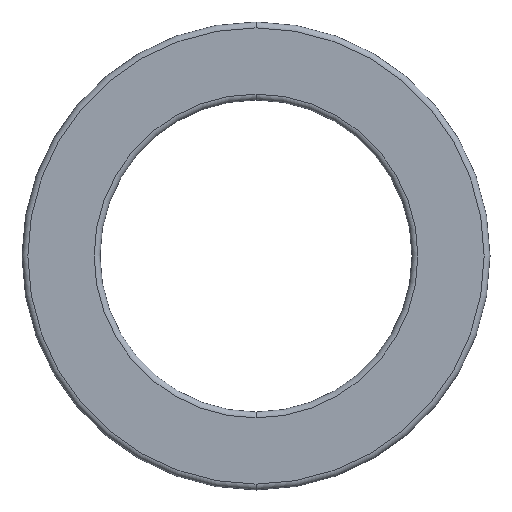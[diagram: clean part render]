
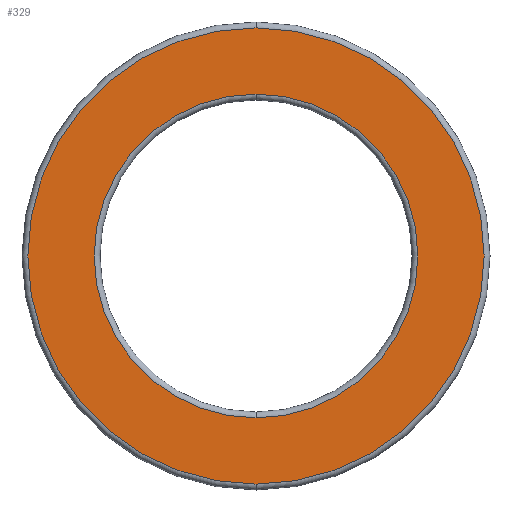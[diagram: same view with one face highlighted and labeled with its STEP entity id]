
A CAD part, front view. The second image highlights one B-rep face of the part: STEP entity #329.
In plain terms, the highlighted planar face has unit normal (0, -1, 0).
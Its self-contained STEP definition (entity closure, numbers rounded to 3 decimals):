
#5 = VERTEX_POINT ( 'NONE', #297 ) ;
#20 = CIRCLE ( 'NONE', #175, 8.3 ) ;
#31 = CARTESIAN_POINT ( 'NONE',  ( 0., 0., 0. ) ) ;
#34 = DIRECTION ( 'NONE',  ( 0., 0., -1. ) ) ;
#38 = DIRECTION ( 'NONE',  ( 0., 0., -1. ) ) ;
#50 = EDGE_LOOP ( 'NONE', ( #386, #406 ) ) ;
#70 = CARTESIAN_POINT ( 'NONE',  ( 0., 0., 0. ) ) ;
#105 = ORIENTED_EDGE ( 'NONE', *, *, #373, .T. ) ;
#117 = EDGE_CURVE ( 'NONE', #439, #165, #20, .T. ) ;
#119 = CARTESIAN_POINT ( 'NONE',  ( 0., 0., -8.3 ) ) ;
#122 = CIRCLE ( 'NONE', #193, 11.7 ) ;
#136 = AXIS2_PLACEMENT_3D ( 'NONE', #184, #392, #146 ) ;
#146 = DIRECTION ( 'NONE',  ( 0., 0., -1. ) ) ;
#153 = DIRECTION ( 'NONE',  ( 0., 0., -1. ) ) ;
#165 = VERTEX_POINT ( 'NONE', #119 ) ;
#175 = AXIS2_PLACEMENT_3D ( 'NONE', #190, #399, #153 ) ;
#184 = CARTESIAN_POINT ( 'NONE',  ( 0., 0., 0. ) ) ;
#190 = CARTESIAN_POINT ( 'NONE',  ( 0., 0., 0. ) ) ;
#193 = AXIS2_PLACEMENT_3D ( 'NONE', #31, #240, #452 ) ;
#212 = PLANE ( 'NONE',  #282 ) ;
#213 = CARTESIAN_POINT ( 'NONE',  ( 0., 0., -11.7 ) ) ;
#217 = CIRCLE ( 'NONE', #136, 8.3 ) ;
#232 = ORIENTED_EDGE ( 'NONE', *, *, #401, .T. ) ;
#240 = DIRECTION ( 'NONE',  ( 0., -1., 0. ) ) ;
#242 = EDGE_CURVE ( 'NONE', #165, #439, #217, .T. ) ;
#276 = DIRECTION ( 'NONE',  ( 0., -1., 0. ) ) ;
#279 = DIRECTION ( 'NONE',  ( 0., -1., 0. ) ) ;
#282 = AXIS2_PLACEMENT_3D ( 'NONE', #350, #279, #38 ) ;
#297 = CARTESIAN_POINT ( 'NONE',  ( 0., 0., 11.7 ) ) ;
#313 = VERTEX_POINT ( 'NONE', #213 ) ;
#329 = ADVANCED_FACE ( 'NONE', ( #422, #337 ), #212, .T. ) ;
#337 = FACE_BOUND ( 'NONE', #50, .T. ) ;
#343 = CARTESIAN_POINT ( 'NONE',  ( 0., 0., 8.3 ) ) ;
#350 = CARTESIAN_POINT ( 'NONE',  ( 8., 0., 0. ) ) ;
#373 = EDGE_CURVE ( 'NONE', #5, #313, #410, .T. ) ;
#386 = ORIENTED_EDGE ( 'NONE', *, *, #242, .T. ) ;
#388 = AXIS2_PLACEMENT_3D ( 'NONE', #70, #276, #34 ) ;
#392 = DIRECTION ( 'NONE',  ( 0., 1., 0. ) ) ;
#396 = EDGE_LOOP ( 'NONE', ( #232, #105 ) ) ;
#399 = DIRECTION ( 'NONE',  ( 0., 1., 0. ) ) ;
#401 = EDGE_CURVE ( 'NONE', #313, #5, #122, .T. ) ;
#406 = ORIENTED_EDGE ( 'NONE', *, *, #117, .T. ) ;
#410 = CIRCLE ( 'NONE', #388, 11.7 ) ;
#422 = FACE_OUTER_BOUND ( 'NONE', #396, .T. ) ;
#439 = VERTEX_POINT ( 'NONE', #343 ) ;
#452 = DIRECTION ( 'NONE',  ( 0., 0., -1. ) ) ;
